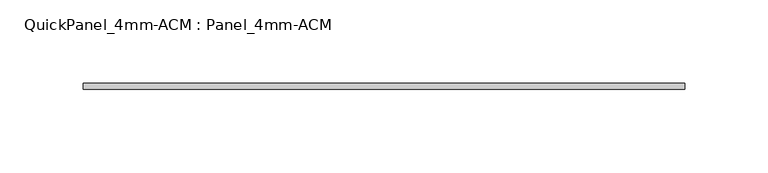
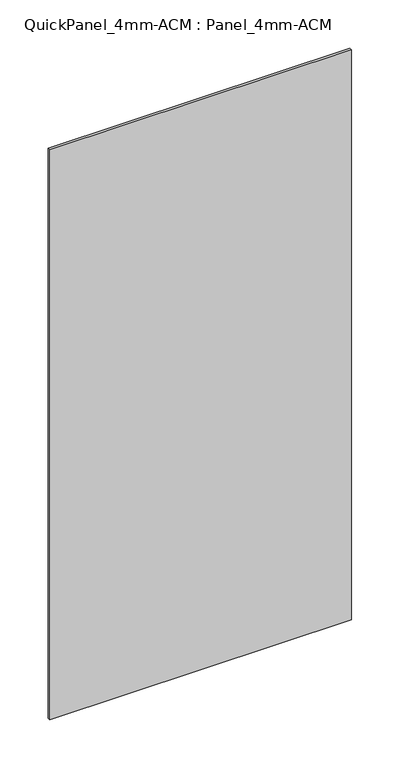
"""IFC4 building model written with IfcOpenShell, lengths in millimetres: plate geometry, QuickPanel_4mm-ACM : Panel_4mm-ACM."""

from ifc_helpers import new_model, si_unit, origin, origin_with_axes, place, context, project, spatial, polyline, outline, extrude, source, transform, mapped, element, save


def quickpanel_4mm_acm_panel_4mm_acm_2b135999(model_context):
    return source(origin(), model_context, "Body", "SweptSolid", [
        extrude(outline(polyline([(-180.9660725, -6.096), (180.9660725, -6.096), (180.9660725, -9.906), (-180.9660725, -9.906), (-180.9660725, -6.096)])), origin_with_axes(), (0.0, 0.0, 1.0), 722.4162315),
    ])


if __name__ == "__main__":
    model = new_model("IFC4")
    model_context = context("Model", 3, world=origin())
    ifc_project = project(units=[si_unit("LENGTHUNIT", "METRE", prefix="MILLI")], contexts=[model_context])
    site = spatial("IfcSite", under=ifc_project)
    building = spatial("IfcBuilding", under=site)
    placement = place(None, origin())
    quickpanel_4mm_acm_panel_4mm_acm_shape = quickpanel_4mm_acm_panel_4mm_acm_2b135999(model_context)
    element("IfcPlate", 1, ObjectType="QuickPanel_4mm-ACM : Panel_4mm-ACM", at=placement, inside=building, context=model_context, shape_type="MappedRepresentation", body=[
        mapped(quickpanel_4mm_acm_panel_4mm_acm_shape, transform((0.0, 0.0, 0.0), x_axis=(1.0, 0.0, 0.0), y_axis=(0.0, 1.0, 0.0), z_axis=(0.0, 0.0, 1.0))),
    ])
    save(model, "model.ifc")
